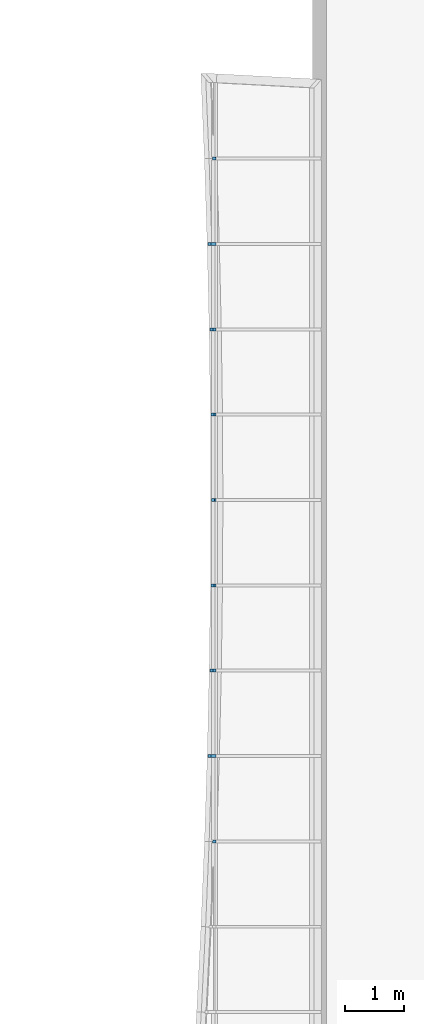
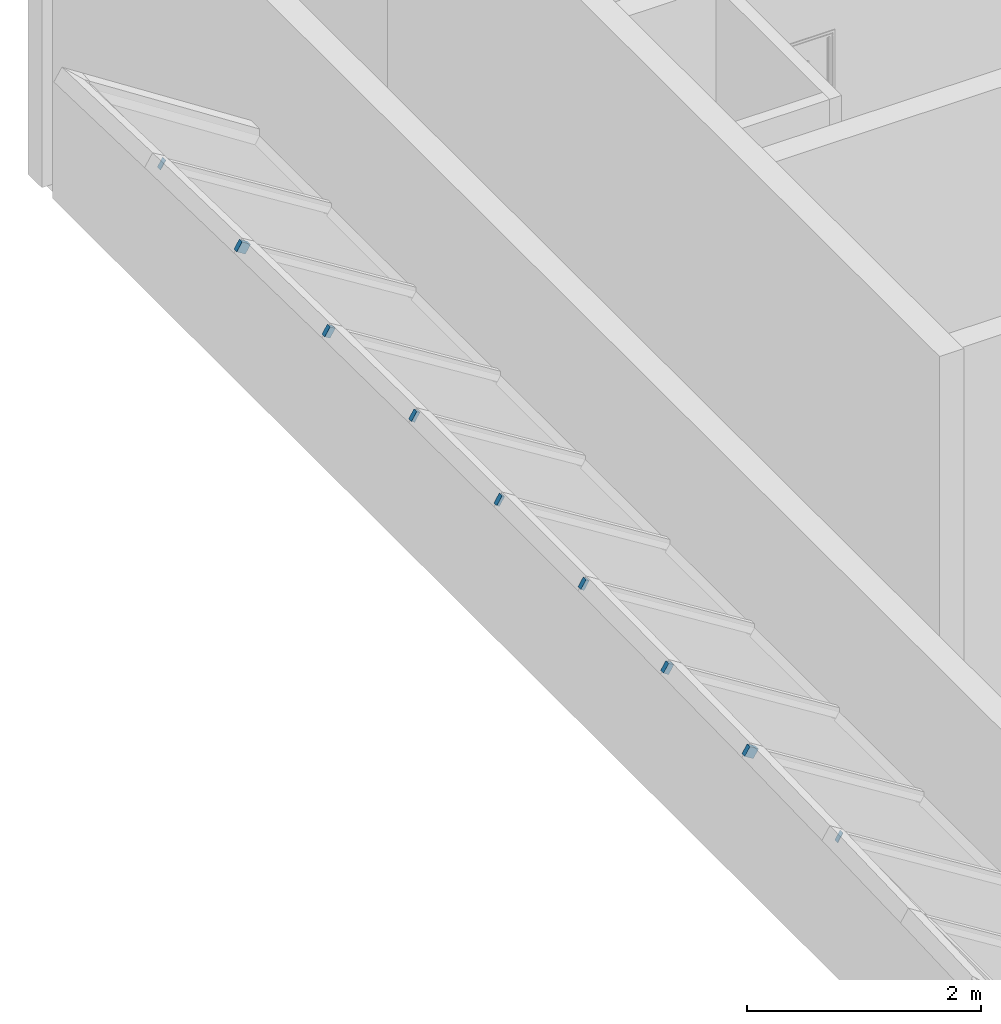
# One storey, part 12 of 33: 9 members, 1 element without a shape of its own.
"""IFC2X3 building model written with IfcOpenShell, lengths in millimetres."""

from ifc_helpers import new_model, entity, si_unit, converted_unit, derived_unit, direction, frame, origin, origin_2d_with_axis, place, context, subcontext, project, spatial, polyline, rectangle, extrude, clip, bounded_halfspace, source, transform, mapped, material, type_object, type_shapes, element, aggregate, save


model = new_model("IFC2X3")

# Units and contexts
model_context = context("Model", 3, precision=0.01, world=origin(), true_north=direction((6.12303176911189e-17, 1.0)))
body_context = subcontext(model_context, "Body", "Model", "MODEL_VIEW")
ifc_project = project(units=[si_unit("LENGTHUNIT", "METRE", prefix="MILLI"), si_unit("AREAUNIT", "SQUARE_METRE"), si_unit("VOLUMEUNIT", "CUBIC_METRE"), converted_unit("PLANEANGLEUNIT", "DEGREE", entity("IfcRatioMeasure", 0.0174532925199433), si_unit("PLANEANGLEUNIT", "RADIAN"), dimensions=[0, 0, 0, 0, 0, 0, 0]), si_unit("MASSUNIT", "GRAM", prefix="KILO"), derived_unit("MASSDENSITYUNIT", [(si_unit("MASSUNIT", "GRAM", prefix="KILO"), 1), (si_unit("LENGTHUNIT", "METRE"), -3)]), si_unit("TIMEUNIT", "SECOND"), si_unit("FREQUENCYUNIT", "HERTZ"), si_unit("THERMODYNAMICTEMPERATUREUNIT", "DEGREE_CELSIUS"), derived_unit("THERMALTRANSMITTANCEUNIT", [(si_unit("MASSUNIT", "GRAM", prefix="KILO"), 1), (si_unit("THERMODYNAMICTEMPERATUREUNIT", "KELVIN"), -1), (si_unit("TIMEUNIT", "SECOND"), -3)]), derived_unit("VOLUMETRICFLOWRATEUNIT", [(si_unit("LENGTHUNIT", "METRE"), 3), (si_unit("TIMEUNIT", "SECOND"), -1)]), si_unit("ELECTRICCURRENTUNIT", "AMPERE"), si_unit("ELECTRICVOLTAGEUNIT", "VOLT"), si_unit("POWERUNIT", "WATT"), si_unit("FORCEUNIT", "NEWTON", prefix="KILO"), si_unit("ILLUMINANCEUNIT", "LUX"), si_unit("LUMINOUSFLUXUNIT", "LUMEN"), si_unit("LUMINOUSINTENSITYUNIT", "CANDELA"), derived_unit("USERDEFINED", [(si_unit("MASSUNIT", "GRAM", prefix="KILO"), -1), (si_unit("LENGTHUNIT", "METRE"), -2), (si_unit("TIMEUNIT", "SECOND"), 3), (si_unit("LUMINOUSFLUXUNIT", "LUMEN"), 1)]), derived_unit("LINEARVELOCITYUNIT", [(si_unit("LENGTHUNIT", "METRE"), 1), (si_unit("TIMEUNIT", "SECOND"), -1)]), si_unit("PRESSUREUNIT", "PASCAL"), derived_unit("USERDEFINED", [(si_unit("LENGTHUNIT", "METRE"), -2), (si_unit("MASSUNIT", "GRAM", prefix="KILO"), 1), (si_unit("TIMEUNIT", "SECOND"), -2)])], contexts=[model_context])

# Site, building, storey
site_placement = place(None, origin())
site = spatial("IfcSite", under=ifc_project, at=site_placement, Name="表面", CompositionType="ELEMENT")
building_placement = place(site_placement, origin())
building = spatial("IfcBuilding", under=site, at=building_placement, CompositionType="ELEMENT")
storey_placement = place(building_placement, frame((0.0, 0.0, 6000.0)))
storey = spatial("IfcBuildingStorey", under=building, at=storey_placement, Name="3F", CompositionType="ELEMENT", Elevation=6000.00000000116)

# Curtain wall, members
curtain_wall_type = type_object("IfcCurtainWallType", Name="幕墙系统:1450 x 2100mm", PredefinedType="NOTDEFINED")
curtain_wall_placement = place(storey_placement, frame((0.0, 0.0, -6000.0)))
curtain_wall = element("IfcCurtainWall", 1, at=curtain_wall_placement, inside=storey, type_object=curtain_wall_type, Name="幕墙系统:1450 x 2100mm", ObjectType="幕墙系统:1450 x 2100mm")
ifc_material = material(Name="金属 - 铝")
member_type_1 = type_object("IfcMemberType", Name="50 x 100mm", PredefinedType="MEMBER")
shared_shape_1 = source(origin(), body_context, "Body", "Clipping", [
    clip(clip(extrude(rectangle(XDim=100.0, YDim=50.0, at=origin_2d_with_axis()), frame((0.0, 0.0, -156.102505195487), z_axis=(0.0, 0.0, 1.0), x_axis=(0.0, -1.0, 0.0)), (0.0, 0.0, 1.0), 7.14728852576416), bounded_halfspace(frame((-1457.33907947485, 75.0, -78.7908485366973), z_axis=(0.0489271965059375, 0.0, 0.998802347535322), x_axis=(0.998802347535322, 0.0, -0.0489271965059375)), False, frame((0.0, 0.0, -156.102505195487), z_axis=(0.0, 0.0, 1.0), x_axis=(0.0, -1.0, 0.0)), polyline([(-50.0, -6.52646892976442), (-50.0, -25.0), (50.0, -25.0), (50.0, -6.52646892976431), (-50.0, -6.52646892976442)]))), bounded_halfspace(frame((-6.52646892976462, 75.0, -149.860158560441), z_axis=(0.038089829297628, 0.0, 0.999274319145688), x_axis=(0.999274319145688, 0.0, -0.038089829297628)), False, frame((0.0, 0.0, -156.102505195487), z_axis=(0.0, 0.0, 1.0), x_axis=(0.0, -1.0, 0.0)), polyline([(-50.0, 25.0), (-50.0, -6.52646892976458), (50.0, -6.52646892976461), (50.0, 25.0), (-50.0, 25.0)]))),
])
type_shapes(member_type_1, [shared_shape_1])
placement = place(building_placement, frame((0.0, 0.0, 9000.0)))
member_1_placement = place(placement, frame((-16343.5333469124, 629.102093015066, 908.770021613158), z_axis=(-0.848048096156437, 0.0, 0.529919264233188), x_axis=(0.0, -1.0, 0.0)))
member_1 = element("IfcMember", 2, at=member_1_placement, type_object=member_type_1, material=ifc_material, Name="矩形竖梃:50 x 100mm", ObjectType="50 x 100mm", context=body_context, shape_type="MappedRepresentation", body=[
    mapped(shared_shape_1, transform((0.0, 0.0, 0.0), scale=1.0)),
])
member_type_2 = type_object("IfcMemberType", Name="50 x 100mm", PredefinedType="MEMBER")
shared_shape_2 = source(origin(), body_context, "Body", "SweptSolid", [
    extrude(rectangle(XDim=100.0, YDim=50.0, at=origin_2d_with_axis()), frame((0.0, 0.0, -100.832144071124), z_axis=(0.0, 0.0, 1.0), x_axis=(0.0, -1.0, 0.0)), (0.0, 0.0, 1.0), 100.832144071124),
])
type_shapes(member_type_2, [shared_shape_2])
member_2_placement = place(placement, frame((-16296.661422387, -820.897906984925, 879.481192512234), z_axis=(-0.84804809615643, 0.0, 0.529919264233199), x_axis=(0.0, -1.0, 0.0)))
member_2 = element("IfcMember", 3, at=member_2_placement, type_object=member_type_2, material=ifc_material, Name="矩形竖梃:50 x 100mm", ObjectType="50 x 100mm", context=body_context, shape_type="MappedRepresentation", body=[
    mapped(shared_shape_2, transform((0.0, 0.0, 0.0), scale=1.0)),
])
member_type_3 = type_object("IfcMemberType", Name="50 x 100mm", PredefinedType="MEMBER")
shared_shape_3 = source(origin(), body_context, "Body", "SweptSolid", [
    extrude(rectangle(XDim=100.0, YDim=50.0, at=origin_2d_with_axis()), frame((0.0, 0.0, -61.306866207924), z_axis=(0.0, 0.0, 1.0), x_axis=(0.0, -1.0, 0.0)), (0.0, 0.0, 1.0), 61.306866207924),
])
type_shapes(member_type_3, [shared_shape_3])
member_3_placement = place(placement, frame((-16263.142085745, -2270.89790698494, 858.535986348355), z_axis=(-0.848048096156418, 0.0, 0.529919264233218), x_axis=(0.0, -1.0, 0.0)))
member_3 = element("IfcMember", 4, at=member_3_placement, type_object=member_type_3, material=ifc_material, Name="矩形竖梃:50 x 100mm", ObjectType="50 x 100mm", context=body_context, shape_type="MappedRepresentation", body=[
    mapped(shared_shape_3, transform((0.0, 0.0, 0.0), scale=1.0)),
])
member_type_4 = type_object("IfcMemberType", Name="50 x 100mm", PredefinedType="MEMBER")
shared_shape_4 = source(origin(), body_context, "Body", "SweptSolid", [
    extrude(rectangle(XDim=100.0, YDim=50.0, at=origin_2d_with_axis()), frame((0.0, 0.0, -37.5166277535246), z_axis=(0.0, 0.0, 1.0), x_axis=(0.0, -1.0, 0.0)), (0.0, 0.0, 1.0), 37.5166277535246),
])
type_shapes(member_type_4, [shared_shape_4])
member_4_placement = place(placement, frame((-16242.9668193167, -3720.89790698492, 845.92908069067), z_axis=(-0.84804809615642, 0.0, 0.529919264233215), x_axis=(0.0, -1.0, 0.0)))
member_4 = element("IfcMember", 5, at=member_4_placement, type_object=member_type_4, material=ifc_material, Name="矩形竖梃:50 x 100mm", ObjectType="50 x 100mm", context=body_context, shape_type="MappedRepresentation", body=[
    mapped(shared_shape_4, transform((0.0, 0.0, 0.0), scale=1.0)),
])
member_type_5 = type_object("IfcMemberType", Name="50 x 100mm", PredefinedType="MEMBER")
shared_shape_5 = source(origin(), body_context, "Body", "SweptSolid", [
    extrude(rectangle(XDim=100.0, YDim=50.0, at=origin_2d_with_axis()), frame((0.0, 0.0, -29.4553874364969), z_axis=(0.0, 0.0, 1.0), x_axis=(0.0, -1.0, 0.0)), (0.0, 0.0, 1.0), 29.4553874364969),
])
type_shapes(member_type_5, [shared_shape_5])
member_5_placement = place(placement, frame((-16236.1304998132, -5170.89790698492, 841.657274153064), z_axis=(-0.848048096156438, 0.0, 0.529919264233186), x_axis=(0.0, -1.0, 0.0)))
member_5 = element("IfcMember", 6, at=member_5_placement, type_object=member_type_5, material=ifc_material, Name="矩形竖梃:50 x 100mm", ObjectType="50 x 100mm", context=body_context, shape_type="MappedRepresentation", body=[
    mapped(shared_shape_5, transform((0.0, 0.0, 0.0), scale=1.0)),
])
member_type_6 = type_object("IfcMemberType", Name="50 x 100mm", PredefinedType="MEMBER")
shared_shape_6 = source(origin(), body_context, "Body", "SweptSolid", [
    extrude(rectangle(XDim=100.0, YDim=50.0, at=origin_2d_with_axis()), frame((0.0, 0.0, -37.1210988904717), z_axis=(0.0, 0.0, 1.0), x_axis=(0.0, -1.0, 0.0)), (0.0, 0.0, 1.0), 37.1210988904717),
])
type_shapes(member_type_6, [shared_shape_6])
member_6_placement = place(placement, frame((-16242.6313918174, -6620.89790698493, 845.719482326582), z_axis=(-0.848048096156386, 0.0, 0.529919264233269), x_axis=(0.0, -1.0, 0.0)))
member_6 = element("IfcMember", 7, at=member_6_placement, type_object=member_type_6, material=ifc_material, Name="矩形竖梃:50 x 100mm", ObjectType="50 x 100mm", context=body_context, shape_type="MappedRepresentation", body=[
    mapped(shared_shape_6, transform((0.0, 0.0, 0.0), scale=1.0)),
])
member_type_7 = type_object("IfcMemberType", Name="50 x 100mm", PredefinedType="MEMBER")
shared_shape_7 = source(origin(), body_context, "Body", "SweptSolid", [
    extrude(rectangle(XDim=100.0, YDim=50.0, at=origin_2d_with_axis()), frame((0.0, 0.0, -60.515708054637), z_axis=(0.0, 0.0, 1.0), x_axis=(0.0, -1.0, 0.0)), (0.0, 0.0, 1.0), 60.515708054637),
])
type_shapes(member_type_7, [shared_shape_7])
member_7_placement = place(placement, frame((-16262.4711455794, -8070.89790698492, 858.116736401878), z_axis=(-0.848048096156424, 0.0, 0.529919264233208), x_axis=(0.0, -1.0, 0.0)))
member_7 = element("IfcMember", 8, at=member_7_placement, type_object=member_type_7, material=ifc_material, Name="矩形竖梃:50 x 100mm", ObjectType="50 x 100mm", context=body_context, shape_type="MappedRepresentation", body=[
    mapped(shared_shape_7, transform((0.0, 0.0, 0.0), scale=1.0)),
])
member_type_8 = type_object("IfcMemberType", Name="50 x 100mm", PredefinedType="MEMBER")
shared_shape_8 = source(origin(), body_context, "Body", "SweptSolid", [
    extrude(rectangle(XDim=100.0, YDim=50.0, at=origin_2d_with_axis()), frame((0.0, 0.0, -99.6451556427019), z_axis=(0.0, 0.0, 1.0), x_axis=(0.0, -1.0, 0.0)), (0.0, 0.0, 1.0), 99.6451556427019),
])
type_shapes(member_type_8, [shared_shape_8])
member_8_placement = place(placement, frame((-16295.6547991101, -9520.89790698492, 878.852184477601), z_axis=(-0.848048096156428, 0.0, 0.529919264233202), x_axis=(0.0, -1.0, 0.0)))
member_8 = element("IfcMember", 9, at=member_8_placement, type_object=member_type_8, material=ifc_material, Name="矩形竖梃:50 x 100mm", ObjectType="50 x 100mm", context=body_context, shape_type="MappedRepresentation", body=[
    mapped(shared_shape_8, transform((0.0, 0.0, 0.0), scale=1.0)),
])
member_type_9 = type_object("IfcMemberType", Name="50 x 100mm", PredefinedType="MEMBER")
shared_shape_9 = source(origin(), body_context, "Body", "Clipping", [
    clip(clip(extrude(rectangle(XDim=100.0, YDim=50.0, at=origin_2d_with_axis()), frame((0.0, 0.0, -154.519384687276), z_axis=(0.0, 0.0, 1.0), x_axis=(0.0, -1.0, 0.0)), (0.0, 0.0, 1.0), 5.5593326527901), bounded_halfspace(frame((6.48558515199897, 75.0, -149.861933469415), z_axis=(-0.0486546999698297, 0.0, 0.998815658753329), x_axis=(0.998815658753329, 0.0, 0.0486546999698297)), False, frame((0.0, 0.0, -154.519384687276), z_axis=(0.0, 0.0, 1.0), x_axis=(0.0, -1.0, 0.0)), polyline([(-50.0, 25.0), (-50.0, 6.48558515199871), (50.0, 6.48558515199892), (50.0, 25.0), (-50.0, 25.0)]))), bounded_halfspace(frame((-1444.32741627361, 75.0, -204.766929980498), z_axis=(-0.0378172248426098, 0.0, 0.999284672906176), x_axis=(0.999284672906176, 0.0, 0.0378172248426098)), False, frame((0.0, 0.0, -154.519384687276), z_axis=(0.0, 0.0, 1.0), x_axis=(0.0, -1.0, 0.0)), polyline([(-50.0, 6.48558515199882), (-50.0, -25.0), (50.0, -25.0), (50.0, 6.48558515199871), (-50.0, 6.48558515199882)]))),
])
type_shapes(member_type_9, [shared_shape_9])
member_9_placement = place(placement, frame((-16342.1907845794, -10970.8979069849, 907.931095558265), z_axis=(-0.848048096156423, 0.0, 0.52991926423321), x_axis=(0.0, -1.0, 0.0)))
member_9 = element("IfcMember", 10, at=member_9_placement, type_object=member_type_9, material=ifc_material, Name="矩形竖梃:50 x 100mm", ObjectType="50 x 100mm", context=body_context, shape_type="MappedRepresentation", body=[
    mapped(shared_shape_9, transform((0.0, 0.0, 0.0), scale=1.0)),
])
aggregate(curtain_wall, [member_1, member_2, member_3, member_4, member_5, member_6, member_7, member_8, member_9])

save(model, "model.ifc")
